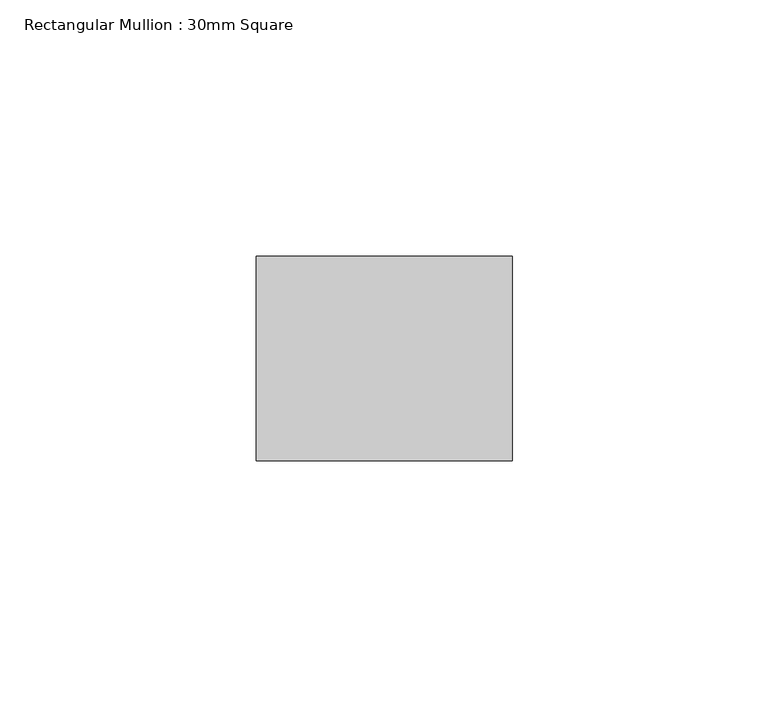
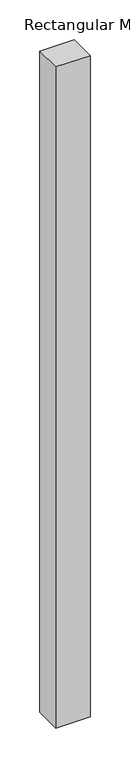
"""IFC4 building model written with IfcOpenShell, lengths in millimetres: member geometry, Rectangular Mullion : 30mm Square."""

from ifc_helpers import new_model, si_unit, frame, origin, place, context, project, spatial, polyline, outline, extrude, source, transform, mapped, element, save


def rectangular_mullion_30mm_square_b668445a(model_context):
    return source(origin(), model_context, "Body", "SweptSolid", [
        extrude(outline(polyline([(25.0, 20.0), (25.0, -20.0), (-25.0, -20.0), (-25.0, 20.0), (25.0, 20.0)])), frame((0.0, 0.0, -1015.0), z_axis=(0.0, 0.0, 1.0), x_axis=(1.0, 0.0, 0.0)), (0.0, 0.0, 1.0), 1015.0),
    ])


if __name__ == "__main__":
    model = new_model("IFC4")
    model_context = context("Model", 3, world=origin())
    ifc_project = project(units=[si_unit("LENGTHUNIT", "METRE", prefix="MILLI")], contexts=[model_context])
    site = spatial("IfcSite", under=ifc_project)
    building = spatial("IfcBuilding", under=site)
    placement = place(None, origin())
    rectangular_mullion_30mm_square_shape = rectangular_mullion_30mm_square_b668445a(model_context)
    element("IfcMember", 1, ObjectType="Rectangular Mullion : 30mm Square", at=placement, inside=building, context=model_context, shape_type="MappedRepresentation", body=[
        mapped(rectangular_mullion_30mm_square_shape, transform((0.0, 0.0, 0.0), x_axis=(1.0, 0.0, 0.0), y_axis=(0.0, 1.0, 0.0), z_axis=(0.0, 0.0, 1.0))),
    ])
    save(model, "model.ifc")
